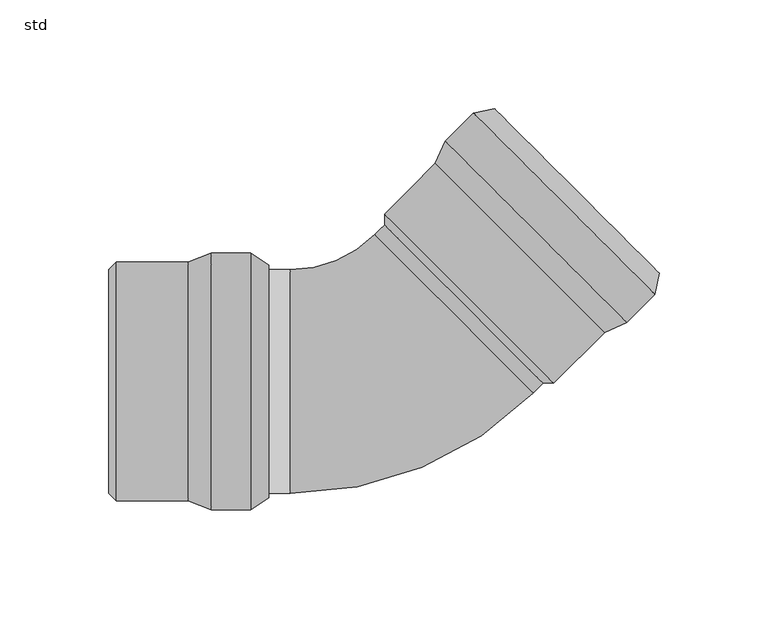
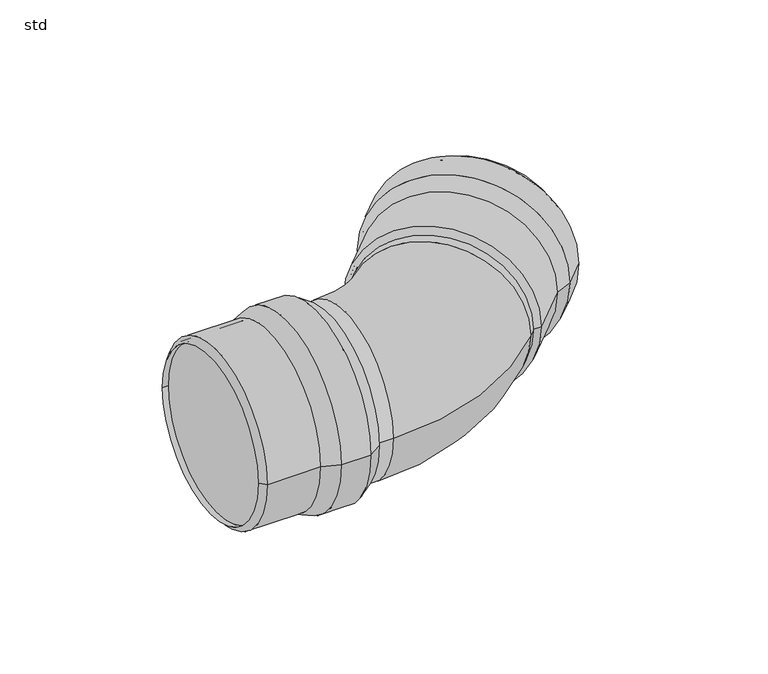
"""IFC4 building model written with IfcOpenShell, lengths in millimetres: pipe fitting geometry, PIF_ST_UN_GM-X pipe bend_ACO : std."""

from ifc_helpers import new_model, si_unit, point, frame, origin, place, context, project, spatial, polyline, circle_curve, ellipse_curve, trimmed, source, transform, mapped, element, save
from ifc_brep_helpers import plane_surface, cylinder_surface, revolved_surface, advanced_brep


def std_19c47b64(model_context):
    return source(origin(), model_context, "Body", "AdvancedBrep", [
        advanced_brep(
        [(-80.5, -59.0, 0.0), (-80.5, 59.0, 0.0), (-62.3, 59.0, 0.0), (-62.3, -59.0, 0.0), (-91.0, -55.0, 0.0), (-91.0, 55.0, 0.0), (-54.0, 53.5, 0.0), (-54.0, -53.5, 0.0), (-124.0, -55.0, 0.0), (-124.0, 55.0, 0.0), (-127.5, -51.5, 0.0), (-127.5, 51.5, 0.0), (-124.0, -51.5, 0.0), (-124.0, 51.5, 0.0), (-90.6319487, -53.0, 0.0), (-90.6319487, 53.0, 0.0), (-124.0, 53.0, 0.0), (-124.0, -53.0, 0.0), (-80.1319487, -57.0, 0.0), (-80.1319487, 57.0, 0.0), (-62.9025117, -57.0, 0.0), (-62.9025117, 57.0, 0.0), (-55.1047607, -51.8328156, 0.0), (-55.1047607, 51.8328156, 0.0)],
        [
            (0, 1, circle_curve(frame((-80.5, 0.0, 0.0), z_axis=(1.0, 0.0, 0.0), x_axis=(0.0, 1.0, 0.0)), 59.0)),
            (1, 2),
            (2, 3, circle_curve(frame((-62.3, 0.0, 0.0), z_axis=(-1.0, 0.0, 0.0), x_axis=(0.0, 1.0, 0.0)), 59.0)),
            (3, 0),
            (1, 0, circle_curve(frame((-80.5, 0.0, 0.0), z_axis=(1.0, 0.0, 0.0), x_axis=(0.0, 1.0, 0.0)), 59.0)),
            (3, 2, circle_curve(frame((-62.3, 0.0, 0.0), z_axis=(-1.0, 0.0, 0.0), x_axis=(0.0, 1.0, 0.0)), 59.0)),
            (4, 5, circle_curve(frame((-91.0, 0.0, 0.0), z_axis=(1.0, 0.0, 0.0), x_axis=(0.0, 1.0, 0.0)), 55.0)),
            (5, 1),
            (0, 4),
            (5, 4, circle_curve(frame((-91.0, 0.0, 0.0), z_axis=(1.0, 0.0, 0.0), x_axis=(0.0, 1.0, 0.0)), 55.0)),
            (2, 6),
            (6, 7, circle_curve(frame((-54.0, 0.0, 0.0), z_axis=(-1.0, 0.0, 0.0), x_axis=(0.0, 1.0, 0.0)), 53.5)),
            (7, 3),
            (7, 6, circle_curve(frame((-54.0, 0.0, 0.0), z_axis=(-1.0, 0.0, 0.0), x_axis=(0.0, 1.0, 0.0)), 53.5)),
            (8, 9, circle_curve(frame((-124.0, 0.0, 0.0), z_axis=(1.0, 0.0, 0.0), x_axis=(0.0, 1.0, 0.0)), 55.0)),
            (9, 5),
            (4, 8),
            (9, 8, circle_curve(frame((-124.0, 0.0, 0.0), z_axis=(1.0, 0.0, 0.0), x_axis=(0.0, 1.0, 0.0)), 55.0)),
            (10, 11, circle_curve(frame((-127.5, 0.0, 0.0), z_axis=(1.0, 0.0, 0.0), x_axis=(0.0, 1.0, 0.0)), 51.5)),
            (11, 9),
            (8, 10),
            (11, 10, circle_curve(frame((-127.5, 0.0, 0.0), z_axis=(1.0, 0.0, 0.0), x_axis=(0.0, 1.0, 0.0)), 51.5)),
            (12, 13, circle_curve(frame((-124.0, 0.0, 0.0), z_axis=(1.0, 0.0, 0.0), x_axis=(0.0, 1.0, 0.0)), 51.5)),
            (13, 11),
            (10, 12),
            (13, 12, circle_curve(frame((-124.0, 0.0, 0.0), z_axis=(1.0, 0.0, 0.0), x_axis=(0.0, 1.0, 0.0)), 51.5)),
            (14, 15, circle_curve(frame((-90.6319487, 0.0, 0.0), z_axis=(1.0, 0.0, 0.0), x_axis=(0.0, 1.0, 0.0)), 53.0)),
            (15, 16),
            (16, 17, circle_curve(frame((-124.0, 0.0, 0.0), z_axis=(-1.0, 0.0, 0.0), x_axis=(0.0, 1.0, 0.0)), 53.0)),
            (17, 14),
            (15, 14, circle_curve(frame((-90.6319487, 0.0, 0.0), z_axis=(1.0, 0.0, 0.0), x_axis=(0.0, 1.0, 0.0)), 53.0)),
            (17, 16, circle_curve(frame((-124.0, 0.0, 0.0), z_axis=(-1.0, 0.0, 0.0), x_axis=(0.0, 1.0, 0.0)), 53.0)),
            (18, 19, circle_curve(frame((-80.1319487, 0.0, 0.0), z_axis=(1.0, 0.0, 0.0), x_axis=(0.0, 1.0, 0.0)), 57.0)),
            (19, 15),
            (14, 18),
            (19, 18, circle_curve(frame((-80.1319487, 0.0, 0.0), z_axis=(1.0, 0.0, 0.0), x_axis=(0.0, 1.0, 0.0)), 57.0)),
            (20, 21, circle_curve(frame((-62.9025117, 0.0, 0.0), z_axis=(1.0, 0.0, 0.0), x_axis=(0.0, 1.0, 0.0)), 57.0)),
            (21, 19),
            (18, 20),
            (21, 20, circle_curve(frame((-62.9025117, 0.0, 0.0), z_axis=(1.0, 0.0, 0.0), x_axis=(0.0, 1.0, 0.0)), 57.0)),
            (22, 23, circle_curve(frame((-55.1047607, 0.0, 0.0), z_axis=(1.0, 0.0, 0.0), x_axis=(0.0, 1.0, 0.0)), 51.8328156)),
            (23, 21),
            (20, 22),
            (23, 22, circle_curve(frame((-55.1047607, 0.0, 0.0), z_axis=(1.0, 0.0, 0.0), x_axis=(0.0, 1.0, 0.0)), 51.8328156)),
            (6, 23),
            (22, 7),
            (16, 13),
            (12, 17),
        ],
        [
            cylinder_surface(frame((-57.3555883, 0.0, 0.0), z_axis=(-1.0, 0.0, 0.0), x_axis=(0.0, 1.0, 0.0)), 59.0),
            revolved_surface(polyline([(-80.5, 59.0, 0.0), (-91.0, 55.0, 0.0)]), (-57.3555883, 0.0, 0.0), (-1.0, 0.0, 0.0)),
            revolved_surface(polyline([(-54.0, 53.5, 0.0), (-62.3, 59.0, 0.0)]), (-57.3555883, 0.0, 0.0), (-1.0, 0.0, 0.0)),
            cylinder_surface(frame((-57.3555883, 0.0, 0.0), z_axis=(-1.0, 0.0, 0.0), x_axis=(0.0, 1.0, 0.0)), 55.0),
            revolved_surface(polyline([(-124.0, 55.0, 0.0), (-127.5, 51.5, 0.0)]), (-57.3555883, 0.0, 0.0), (-1.0, 0.0, 0.0)),
            revolved_surface(polyline([(-127.5, 51.5, 0.0), (-124.0, 51.5, 0.0)]), (-57.3555883, 0.0, 0.0), (-1.0, 0.0, 0.0)),
            revolved_surface(polyline([(-124.0, 53.0, 0.0), (-90.6319487, 53.0, 0.0)]), (-57.3555883, 0.0, 0.0), (-1.0, 0.0, 0.0)),
            revolved_surface(polyline([(-90.6319487, 53.0, 0.0), (-80.1319487, 57.0, 0.0)]), (-57.3555883, 0.0, 0.0), (-1.0, 0.0, 0.0)),
            revolved_surface(polyline([(-80.1319487, 57.0, 0.0), (-62.9025117, 57.0, 0.0)]), (-57.3555883, 0.0, 0.0), (-1.0, 0.0, 0.0)),
            revolved_surface(polyline([(-62.9025117, 57.0, 0.0), (-55.1047607, 51.8328156, 0.0)]), (-57.3555883, 0.0, 0.0), (-1.0, 0.0, 0.0)),
            revolved_surface(polyline([(-55.1047607, 51.8328156, 0.0), (-54.0, 53.5, 0.0)]), (-57.3555883, 0.0, 0.0), (-1.0, 0.0, 0.0)),
            plane_surface(frame((-124.0, 0.0, 0.0), z_axis=(1.0, 0.0, 0.0), x_axis=(0.0, 1.0, 0.0))),
        ],
        [
            (0, [[1, 2, 3, 4]]),
            (0, [[5, -4, 6, -2]]),
            (1, [[7, 8, -1, 9]]),
            (1, [[10, -9, -5, -8]]),
            (2, [[-3, 11, 12, 13]]),
            (2, [[-6, -13, 14, -11]]),
            (3, [[15, 16, -7, 17]]),
            (3, [[18, -17, -10, -16]]),
            (4, [[19, 20, -15, 21]]),
            (4, [[22, -21, -18, -20]]),
            (5, [[23, 24, -19, 25]]),
            (5, [[26, -25, -22, -24]]),
            (6, [[27, 28, 29, 30]]),
            (6, [[31, -30, 32, -28]]),
            (7, [[33, 34, -27, 35]]),
            (7, [[36, -35, -31, -34]]),
            (8, [[37, 38, -33, 39]]),
            (8, [[40, -39, -36, -38]]),
            (9, [[41, 42, -37, 43]]),
            (9, [[44, -43, -40, -42]]),
            (10, [[-12, 45, -41, 46]]),
            (10, [[-14, -46, -44, -45]]),
            (11, [[-29, 47, -23, 48]]),
            (11, [[-32, -48, -26, -47]]),
        ],
    ),
        advanced_brep(
        [(110.6647475, 27.2132993, 0.0), (27.2339226, 110.659674, 0.0), (40.1044652, 123.5278182, 0.0), (123.5352901, 40.0814435, 0.0), (100.4112709, 22.6180606, 0.0), (22.6367732, 100.407054, 0.0), (49.8627232, 125.5068079, 0.0), (125.5160983, 49.8393325, 0.0), (77.0745729, -0.7142887, 0.0), (-0.6999249, 77.0747047, 0.0), (72.1248255, -0.7138275, 0.0), (-0.7003861, 72.1249573, 0.0), (74.5999298, 1.7608156, 0.0), (1.7747183, 74.5996004, 0.0), (99.257465, 24.2926333, 0.0), (24.3111307, 99.252936, 0.0), (0.7141569, 75.6603594, 0.0), (75.6604911, 0.7000566, 0.0), (109.5109415, 28.8878719, 0.0), (28.9082802, 109.505556, 0.0), (121.6951285, 41.0697884, 0.0), (41.0924671, 121.6874725, 0.0), (123.5560742, 50.2372087, 0.0), (50.2602341, 123.5467097, 0.0)],
        [
            (0, 1, circle_curve(frame((68.9493351, 68.9364867, 0.0), z_axis=(0.7071726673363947, 0.7070408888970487, 0.0), x_axis=(-0.7070408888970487, 0.7071726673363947, 0.0)), 59.0)),
            (1, 2),
            (2, 3, circle_curve(frame((81.8198776, 81.8046308, 0.0), z_axis=(-0.7071726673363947, -0.7070408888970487, 0.0), x_axis=(-0.7070408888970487, 0.7071726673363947, 0.0)), 59.0)),
            (3, 0),
            (1, 0, circle_curve(frame((68.9493351, 68.9364867, 0.0), z_axis=(0.7071726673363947, 0.7070408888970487, 0.0), x_axis=(-0.7070408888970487, 0.7071726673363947, 0.0)), 59.0)),
            (3, 2, circle_curve(frame((81.8198776, 81.8046308, 0.0), z_axis=(-0.7071726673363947, -0.7070408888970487, 0.0), x_axis=(-0.7070408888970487, 0.7071726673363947, 0.0)), 59.0)),
            (4, 5, circle_curve(frame((61.5240221, 61.5125573, 0.0), z_axis=(0.7071726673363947, 0.7070408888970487, 0.0), x_axis=(-0.7070408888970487, 0.7071726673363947, 0.0)), 55.0)),
            (5, 1),
            (0, 4),
            (5, 4, circle_curve(frame((61.5240221, 61.5125573, 0.0), z_axis=(0.7071726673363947, 0.7070408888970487, 0.0), x_axis=(-0.7070408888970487, 0.7071726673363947, 0.0)), 55.0)),
            (2, 6),
            (6, 7, circle_curve(frame((87.6894107, 87.6730702, 0.0), z_axis=(-0.7071726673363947, -0.7070408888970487, 0.0), x_axis=(-0.7070408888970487, 0.7071726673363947, 0.0)), 53.5)),
            (7, 3),
            (7, 6, circle_curve(frame((87.6894107, 87.6730702, 0.0), z_axis=(-0.7071726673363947, -0.7070408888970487, 0.0), x_axis=(-0.7070408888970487, 0.7071726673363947, 0.0)), 53.5)),
            (8, 9, circle_curve(frame((38.187324, 38.180208, 0.0), z_axis=(0.7071726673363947, 0.7070408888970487, 0.0), x_axis=(-0.7070408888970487, 0.7071726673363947, 0.0)), 55.0)),
            (9, 5),
            (4, 8),
            (9, 8, circle_curve(frame((38.187324, 38.180208, 0.0), z_axis=(0.7071726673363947, 0.7070408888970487, 0.0), x_axis=(-0.7070408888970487, 0.7071726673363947, 0.0)), 55.0)),
            (10, 11, circle_curve(frame((35.7122197, 35.7055649, 0.0), z_axis=(0.7071726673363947, 0.7070408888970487, 0.0), x_axis=(-0.7070408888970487, 0.7071726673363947, 0.0)), 51.5)),
            (11, 9),
            (8, 10),
            (11, 10, circle_curve(frame((35.7122197, 35.7055649, 0.0), z_axis=(0.7071726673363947, 0.7070408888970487, 0.0), x_axis=(-0.7070408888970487, 0.7071726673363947, 0.0)), 51.5)),
            (12, 13, circle_curve(frame((38.187324, 38.180208, 0.0), z_axis=(0.7071726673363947, 0.7070408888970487, 0.0), x_axis=(-0.7070408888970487, 0.7071726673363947, 0.0)), 51.5)),
            (13, 11),
            (10, 12),
            (13, 12, circle_curve(frame((38.187324, 38.180208, 0.0), z_axis=(0.7071726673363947, 0.7070408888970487, 0.0), x_axis=(-0.7070408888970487, 0.7071726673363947, 0.0)), 51.5)),
            (14, 15, circle_curve(frame((61.7842979, 61.7727846, 0.0), z_axis=(0.7071726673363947, 0.7070408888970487, 0.0), x_axis=(-0.7070408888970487, 0.7071726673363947, 0.0)), 53.0)),
            (15, 16),
            (16, 17, circle_curve(frame((38.187324, 38.180208, 0.0), z_axis=(-0.7071726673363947, -0.7070408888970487, 0.0), x_axis=(-0.7070408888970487, 0.7071726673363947, 0.0)), 53.0)),
            (17, 14),
            (15, 14, circle_curve(frame((61.7842979, 61.7727846, 0.0), z_axis=(0.7071726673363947, 0.7070408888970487, 0.0), x_axis=(-0.7070408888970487, 0.7071726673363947, 0.0)), 53.0)),
            (17, 16, circle_curve(frame((38.187324, 38.180208, 0.0), z_axis=(-0.7071726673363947, -0.7070408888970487, 0.0), x_axis=(-0.7070408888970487, 0.7071726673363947, 0.0)), 53.0)),
            (18, 19, circle_curve(frame((69.2096109, 69.196714, 0.0), z_axis=(0.7071726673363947, 0.7070408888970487, 0.0), x_axis=(-0.7070408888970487, 0.7071726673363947, 0.0)), 57.0)),
            (19, 15),
            (14, 18),
            (19, 18, circle_curve(frame((69.2096109, 69.196714, 0.0), z_axis=(0.7071726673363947, 0.7070408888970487, 0.0), x_axis=(-0.7070408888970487, 0.7071726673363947, 0.0)), 57.0)),
            (20, 21, circle_curve(frame((81.3937978, 81.3786304, 0.0), z_axis=(0.7071726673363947, 0.7070408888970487, 0.0), x_axis=(-0.7070408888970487, 0.7071726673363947, 0.0)), 57.0)),
            (21, 19),
            (18, 20),
            (21, 20, circle_curve(frame((81.3937978, 81.3786304, 0.0), z_axis=(0.7071726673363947, 0.7070408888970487, 0.0), x_axis=(-0.7070408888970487, 0.7071726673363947, 0.0)), 57.0)),
            (22, 23, circle_curve(frame((86.9081542, 86.8919592, 0.0), z_axis=(0.7071726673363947, 0.7070408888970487, 0.0), x_axis=(-0.7070408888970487, 0.7071726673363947, 0.0)), 51.8328156)),
            (23, 21),
            (20, 22),
            (23, 22, circle_curve(frame((86.9081542, 86.8919592, 0.0), z_axis=(0.7071726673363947, 0.7070408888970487, 0.0), x_axis=(-0.7070408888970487, 0.7071726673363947, 0.0)), 51.8328156)),
            (6, 23),
            (22, 7),
            (16, 13),
            (12, 17),
        ],
        [
            cylinder_surface(frame((85.3164304, 85.3005321, 0.0), z_axis=(-0.7071726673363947, -0.7070408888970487, 0.0), x_axis=(-0.7070408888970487, 0.7071726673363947, 0.0)), 59.0),
            revolved_surface(polyline([(27.2339226, 110.659674, 0.0), (22.6367732, 100.407054, 0.0)]), (85.3164304, 85.3005321, 0.0), (-0.7071726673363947, -0.7070408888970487, 0.0)),
            revolved_surface(polyline([(49.8627232, 125.5068079, 0.0), (40.1044652, 123.5278182, 0.0)]), (85.3164304, 85.3005321, 0.0), (-0.7071726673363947, -0.7070408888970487, 0.0)),
            cylinder_surface(frame((85.3164304, 85.3005321, 0.0), z_axis=(-0.7071726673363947, -0.7070408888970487, 0.0), x_axis=(-0.7070408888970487, 0.7071726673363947, 0.0)), 55.0),
            revolved_surface(polyline([(-0.6999249, 77.0747047, 0.0), (-0.7003861, 72.1249573, 0.0)]), (85.3164304, 85.3005321, 0.0), (-0.7071726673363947, -0.7070408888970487, 0.0)),
            revolved_surface(polyline([(-0.7003860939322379, 72.12495727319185, 0.0), (1.7747182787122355, 74.59960042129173, 0.0)]), (85.3164304, 85.3005321, 0.0), (-0.7071726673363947, -0.7070408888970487, 0.0)),
            revolved_surface(polyline([(0.7141568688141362, 75.66035934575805, 0.0), (24.311130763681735, 99.2529360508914, 0.0)]), (85.3164304, 85.3005321, 0.0), (-0.7071726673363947, -0.7070408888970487, 0.0)),
            revolved_surface(polyline([(24.3111307, 99.252936, 0.0), (28.9082802, 109.505556, 0.0)]), (85.3164304, 85.3005321, 0.0), (-0.7071726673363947, -0.7070408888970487, 0.0)),
            revolved_surface(polyline([(28.908280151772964, 109.50555599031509, 0.0), (41.09246713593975, 121.68747250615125, 0.0)]), (85.3164304, 85.3005321, 0.0), (-0.7071726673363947, -0.7070408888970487, 0.0)),
            revolved_surface(polyline([(41.0924671, 121.6874725, 0.0), (50.2602341, 123.5467097, 0.0)]), (85.3164304, 85.3005321, 0.0), (-0.7071726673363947, -0.7070408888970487, 0.0)),
            revolved_surface(polyline([(50.2602341, 123.5467097, 0.0), (49.8627232, 125.5068079, 0.0)]), (85.3164304, 85.3005321, 0.0), (-0.7071726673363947, -0.7070408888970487, 0.0)),
            plane_surface(frame((38.187324, 38.180208, 0.0), z_axis=(0.7071726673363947, 0.7070408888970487, 0.0), x_axis=(-0.7070408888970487, 0.7071726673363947, 0.0))),
        ],
        [
            (0, [[1, 2, 3, 4]]),
            (0, [[5, -4, 6, -2]]),
            (1, [[7, 8, -1, 9]]),
            (1, [[10, -9, -5, -8]]),
            (2, [[-3, 11, 12, 13]]),
            (2, [[-6, -13, 14, -11]]),
            (3, [[15, 16, -7, 17]]),
            (3, [[18, -17, -10, -16]]),
            (4, [[19, 20, -15, 21]]),
            (4, [[22, -21, -18, -20]]),
            (5, [[23, 24, -19, 25]]),
            (5, [[26, -25, -22, -24]]),
            (6, [[27, 28, 29, 30]]),
            (6, [[31, -30, 32, -28]]),
            (7, [[33, 34, -27, 35]]),
            (7, [[36, -35, -31, -34]]),
            (8, [[37, 38, -33, 39]]),
            (8, [[40, -39, -36, -38]]),
            (9, [[41, 42, -37, 43]]),
            (9, [[44, -43, -40, -42]]),
            (10, [[-12, 45, -41, 46]]),
            (10, [[-14, -46, -44, -45]]),
            (11, [[-29, 47, -23, 48]]),
            (11, [[-32, -48, -26, -47]]),
        ],
    ),
        advanced_brep(
        [(-5.2970084, 67.5291915, 0.0), (-44.0, 51.5, 0.0), (-44.0, -51.5, 0.0), (67.5282031, -5.3095933, 0.0), (31.1155974, 31.1097991, 51.5), (31.1155974, 31.1097991, -51.5), (-124.0, -51.5, 0.0), (-124.0, 51.5, 0.0), (74.5999298, 1.7608156, 0.0), (1.7747183, 74.5996004, 0.0)],
        [
            (0, 1, circle_curve(frame((-44.0, 106.2393965, 0.0), z_axis=(0.0, 0.0, -1.0), x_axis=(0.0, -1.0, 0.0)), 54.7393965)),
            (1, 2, circle_curve(frame((-44.0, 0.0, 0.0), z_axis=(1.0, 0.0, 0.0), x_axis=(0.0, 1.0, 0.0)), 51.5)),
            (2, 3, circle_curve(frame((-44.0, 106.2393965, 0.0), z_axis=(0.0, 0.0, 1.0), x_axis=(0.0, -1.0, 0.0)), 157.7393965)),
            (3, 4, circle_curve(frame((31.1155974, 31.1097991, 0.0), z_axis=(-0.7071726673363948, -0.7070408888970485, 0.0), x_axis=(-0.7070408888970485, 0.7071726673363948, 0.0)), 51.5)),
            (4, 0, circle_curve(frame((31.1155974, 31.1097991, 0.0), z_axis=(-0.7071726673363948, -0.7070408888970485, 0.0), x_axis=(-0.7070408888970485, 0.7071726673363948, 0.0)), 51.5)),
            (0, 5, circle_curve(frame((31.1155974, 31.1097991, 0.0), z_axis=(-0.7071726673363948, -0.7070408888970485, 0.0), x_axis=(-0.7070408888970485, 0.7071726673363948, 0.0)), 51.5)),
            (5, 3, circle_curve(frame((31.1155974, 31.1097991, 0.0), z_axis=(-0.7071726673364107, -0.7070408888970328, 0.0), x_axis=(-0.7070408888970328, 0.7071726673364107, 0.0)), 51.5)),
            (2, 1, circle_curve(frame((-44.0, 0.0, 0.0), z_axis=(1.0, 0.0, 0.0), x_axis=(0.0, 1.0, 0.0)), 51.5)),
            (6, 7, circle_curve(frame((-124.0, 0.0, 0.0), z_axis=(-1.0, 0.0, 0.0), x_axis=(0.0, 1.0, 0.0)), 51.5)),
            (7, 6, circle_curve(frame((-124.0, 0.0, 0.0), z_axis=(-1.0, 0.0, 0.0), x_axis=(0.0, 1.0, 0.0)), 51.5)),
            (7, 1),
            (2, 6),
            (8, 9, circle_curve(frame((38.187324, 38.180208, 0.0), z_axis=(0.707172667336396, 0.7070408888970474, 0.0), x_axis=(-0.7070408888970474, 0.707172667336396, 0.0)), 51.5)),
            (9, 8, circle_curve(frame((38.187324, 38.180208, 0.0), z_axis=(0.707172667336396, 0.7070408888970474, 0.0), x_axis=(-0.7070408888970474, 0.707172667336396, 0.0)), 51.5)),
            (9, 0),
            (3, 8),
        ],
        [
            revolved_surface(trimmed(ellipse_curve(frame((-44.0, 0.0, 0.0), z_axis=(-1.0, 0.0, 0.0), x_axis=(0.0, 1.0, 0.0)), 51.5, 51.5), [point((-44.0, -51.5, 0.0))], [point((-44.0, 51.5, 0.0))], True, "CARTESIAN"), (-44.0, 106.2393965, 0.0), (0.0, 0.0, 1.0)),
            revolved_surface(trimmed(ellipse_curve(frame((-44.0, 0.0, 0.0), z_axis=(-1.0, 0.0, 0.0), x_axis=(0.0, 1.0, 0.0)), 51.5, 51.5), [point((-44.0, 51.5, 0.0))], [point((-44.0, -51.5, 0.0))], True, "CARTESIAN"), (-44.0, 106.2393965, 0.0), (0.0, 0.0, 1.0)),
            plane_surface(frame((-124.0, 51.5, 0.0), z_axis=(-1.0, 0.0, 0.0), x_axis=(0.0, 0.0, -1.0))),
            cylinder_surface(frame((-124.0, 0.0, 0.0), z_axis=(1.0, 0.0, 0.0), x_axis=(0.0, 1.0, 0.0)), 51.5),
            plane_surface(frame((38.187324, 38.180208, 0.0), z_axis=(0.707172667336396, 0.7070408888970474, 0.0), x_axis=(0.0, 0.0, 1.0))),
            cylinder_surface(frame((31.1155974, 31.1097991, 0.0), z_axis=(-0.707172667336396, -0.7070408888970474, 0.0), x_axis=(-0.7070408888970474, 0.707172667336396, 0.0)), 51.5),
        ],
        [
            (0, [[1, 2, 3, 4, 5]]),
            (1, [[-1, 6, 7, -3, 8]]),
            (2, [[9, 10]]),
            (3, [[-10, 11, -8, 12]]),
            (3, [[-9, -12, -2, -11]]),
            (4, [[13, 14]]),
            (5, [[-14, 15, -5, -4, 16]]),
            (5, [[-13, -16, -7, -6, -15]]),
        ],
    ),
    ])


if __name__ == "__main__":
    model = new_model("IFC4")
    model_context = context("Model", 3, world=origin())
    ifc_project = project(units=[si_unit("LENGTHUNIT", "METRE", prefix="MILLI")], contexts=[model_context])
    site = spatial("IfcSite", under=ifc_project)
    building = spatial("IfcBuilding", under=site)
    placement = place(None, origin())
    std_shape = std_19c47b64(model_context)
    element("IfcPipeFitting", 1, ObjectType="PIF_ST_UN_GM-X pipe bend_ACO : std", at=placement, inside=building, context=model_context, shape_type="MappedRepresentation", body=[
        mapped(std_shape, transform((0.0, 0.0, 0.0), x_axis=(1.0, 0.0, 0.0), y_axis=(0.0, 1.0, 0.0), z_axis=(0.0, 0.0, 1.0))),
    ])
    save(model, "model.ifc")
